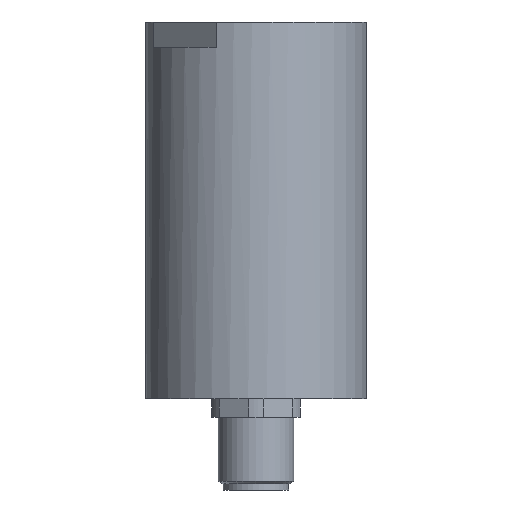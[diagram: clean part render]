
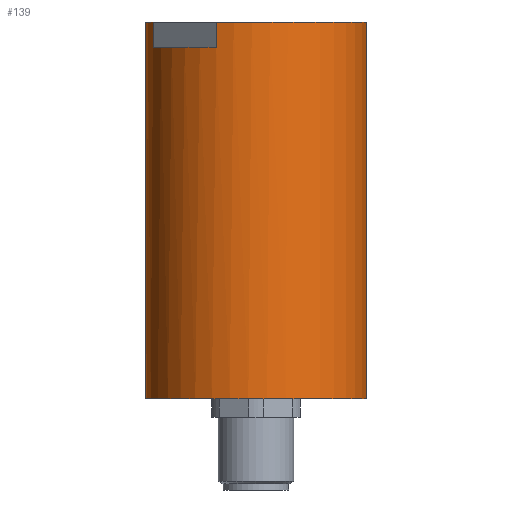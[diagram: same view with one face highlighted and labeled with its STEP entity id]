
A CAD part, front view. The second image highlights one B-rep face of the part: STEP entity #139.
In plain terms, the highlighted cylindrical face has radius 17.5 mm (diameter 35 mm), a full revolution.
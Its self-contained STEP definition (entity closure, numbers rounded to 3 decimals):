
#139 = ADVANCED_FACE( '', ( #373, #374, #375 ), #376, .T. );
#373 = FACE_OUTER_BOUND( '', #742, .T. );
#374 = FACE_OUTER_BOUND( '', #743, .T. );
#375 = FACE_BOUND( '', #744, .T. );
#376 = CYLINDRICAL_SURFACE( '', #745, 17.5 );
#742 = EDGE_LOOP( '', ( #1129, #1130, #1131, #1132, #1133, #1134, #1135, #1136 ) );
#743 = EDGE_LOOP( '', ( #1137 ) );
#744 = EDGE_LOOP( '', ( #1138, #1139, #1140, #1141 ) );
#745 = AXIS2_PLACEMENT_3D( '', #1142, #1143, #1144 );
#1129 = ORIENTED_EDGE( '', *, *, #1915, .T. );
#1130 = ORIENTED_EDGE( '', *, *, #1916, .T. );
#1131 = ORIENTED_EDGE( '', *, *, #1917, .T. );
#1132 = ORIENTED_EDGE( '', *, *, #1918, .F. );
#1133 = ORIENTED_EDGE( '', *, *, #1919, .T. );
#1134 = ORIENTED_EDGE( '', *, *, #1920, .T. );
#1135 = ORIENTED_EDGE( '', *, *, #1921, .T. );
#1136 = ORIENTED_EDGE( '', *, *, #1922, .F. );
#1137 = ORIENTED_EDGE( '', *, *, #1923, .F. );
#1138 = ORIENTED_EDGE( '', *, *, #1924, .F. );
#1139 = ORIENTED_EDGE( '', *, *, #1925, .T. );
#1140 = ORIENTED_EDGE( '', *, *, #1890, .F. );
#1141 = ORIENTED_EDGE( '', *, *, #1926, .F. );
#1142 = CARTESIAN_POINT( '', ( 0., 0., -4.5 ) );
#1143 = DIRECTION( '', ( 0., 0., -1. ) );
#1144 = DIRECTION( '', ( 1., 0., 0. ) );
#1890 = EDGE_CURVE( '', #2192, #2188, #2194, .T. );
#1915 = EDGE_CURVE( '', #2236, #2237, #2238, .T. );
#1916 = EDGE_CURVE( '', #2237, #2239, #2240, .T. );
#1917 = EDGE_CURVE( '', #2239, #2241, #2242, .T. );
#1918 = EDGE_CURVE( '', #2243, #2241, #2244, .T. );
#1919 = EDGE_CURVE( '', #2243, #2245, #2246, .T. );
#1920 = EDGE_CURVE( '', #2245, #2247, #2248, .T. );
#1921 = EDGE_CURVE( '', #2247, #2249, #2250, .T. );
#1922 = EDGE_CURVE( '', #2236, #2249, #2251, .T. );
#1923 = EDGE_CURVE( '', #2252, #2252, #2253, .T. );
#1924 = EDGE_CURVE( '', #2254, #2255, #2256, .T. );
#1925 = EDGE_CURVE( '', #2254, #2188, #2257, .T. );
#1926 = EDGE_CURVE( '', #2255, #2192, #2258, .T. );
#2188 = VERTEX_POINT( '', #2633 );
#2192 = VERTEX_POINT( '', #2639 );
#2194 = LINE( '', #2642, #2643 );
#2236 = VERTEX_POINT( '', #2694 );
#2237 = VERTEX_POINT( '', #2695 );
#2238 = CIRCLE( '', #2696, 17.5 );
#2239 = VERTEX_POINT( '', #2697 );
#2240 = LINE( '', #2698, #2699 );
#2241 = VERTEX_POINT( '', #2700 );
#2242 = CIRCLE( '', #2701, 17.5 );
#2243 = VERTEX_POINT( '', #2702 );
#2244 = LINE( '', #2703, #2704 );
#2245 = VERTEX_POINT( '', #2705 );
#2246 = CIRCLE( '', #2706, 17.5 );
#2247 = VERTEX_POINT( '', #2707 );
#2248 = LINE( '', #2708, #2709 );
#2249 = VERTEX_POINT( '', #2710 );
#2250 = CIRCLE( '', #2711, 17.5 );
#2251 = LINE( '', #2712, #2713 );
#2252 = VERTEX_POINT( '', #2714 );
#2253 = CIRCLE( '', #2715, 17.5 );
#2254 = VERTEX_POINT( '', #2716 );
#2255 = VERTEX_POINT( '', #2717 );
#2256 = LINE( '', #2718, #2719 );
#2257 = CIRCLE( '', #2720, 17.5 );
#2258 = CIRCLE( '', #2721, 17.5 );
#2633 = CARTESIAN_POINT( '', ( 13.746, 10.831, 21.7 ) );
#2639 = CARTESIAN_POINT( '', ( 13.746, 10.831, 31.7 ) );
#2642 = CARTESIAN_POINT( '', ( 13.746, 10.831, 31.7 ) );
#2643 = VECTOR( '', #3353, 1000. );
#2694 = CARTESIAN_POINT( '', ( -6.301, -16.326, 51.2 ) );
#2695 = CARTESIAN_POINT( '', ( -16.326, -6.301, 51.2 ) );
#2696 = AXIS2_PLACEMENT_3D( '', #3390, #3391, #3392 );
#2697 = CARTESIAN_POINT( '', ( -16.326, -6.301, 55.2 ) );
#2698 = CARTESIAN_POINT( '', ( -16.326, -6.301, 51.2 ) );
#2699 = VECTOR( '', #3393, 1000. );
#2700 = CARTESIAN_POINT( '', ( 6.301, 16.326, 55.2 ) );
#2701 = AXIS2_PLACEMENT_3D( '', #3394, #3395, #3396 );
#2702 = CARTESIAN_POINT( '', ( 6.301, 16.326, 51.2 ) );
#2703 = CARTESIAN_POINT( '', ( 6.301, 16.326, 51.2 ) );
#2704 = VECTOR( '', #3397, 1000. );
#2705 = CARTESIAN_POINT( '', ( 16.326, 6.301, 51.2 ) );
#2706 = AXIS2_PLACEMENT_3D( '', #3398, #3399, #3400 );
#2707 = CARTESIAN_POINT( '', ( 16.326, 6.301, 55.2 ) );
#2708 = CARTESIAN_POINT( '', ( 16.326, 6.301, 51.2 ) );
#2709 = VECTOR( '', #3401, 1000. );
#2710 = CARTESIAN_POINT( '', ( -6.301, -16.326, 55.2 ) );
#2711 = AXIS2_PLACEMENT_3D( '', #3402, #3403, #3404 );
#2712 = CARTESIAN_POINT( '', ( -6.301, -16.326, 51.2 ) );
#2713 = VECTOR( '', #3405, 1000. );
#2714 = CARTESIAN_POINT( '', ( 12.374, -12.374, -4.5 ) );
#2715 = AXIS2_PLACEMENT_3D( '', #3406, #3407, #3408 );
#2716 = CARTESIAN_POINT( '', ( -13.746, 10.831, 21.7 ) );
#2717 = CARTESIAN_POINT( '', ( -13.746, 10.831, 31.7 ) );
#2718 = CARTESIAN_POINT( '', ( -13.746, 10.831, 31.7 ) );
#2719 = VECTOR( '', #3409, 1000. );
#2720 = AXIS2_PLACEMENT_3D( '', #3410, #3411, #3412 );
#2721 = AXIS2_PLACEMENT_3D( '', #3413, #3414, #3415 );
#3353 = DIRECTION( '', ( 0., 0., -1. ) );
#3390 = CARTESIAN_POINT( '', ( 0., 0., 51.2 ) );
#3391 = DIRECTION( '', ( 0., 0., -1. ) );
#3392 = DIRECTION( '', ( 0.707, -0.707, 0. ) );
#3393 = DIRECTION( '', ( 0., 0., 1. ) );
#3394 = CARTESIAN_POINT( '', ( 0., 0., 55.2 ) );
#3395 = DIRECTION( '', ( 0., 0., -1. ) );
#3396 = DIRECTION( '', ( 0.707, -0.707, 0. ) );
#3397 = DIRECTION( '', ( 0., 0., 1. ) );
#3398 = CARTESIAN_POINT( '', ( 0., 0., 51.2 ) );
#3399 = DIRECTION( '', ( 0., 0., -1. ) );
#3400 = DIRECTION( '', ( 0.707, -0.707, 0. ) );
#3401 = DIRECTION( '', ( 0., 0., 1. ) );
#3402 = CARTESIAN_POINT( '', ( 0., 0., 55.2 ) );
#3403 = DIRECTION( '', ( 0., 0., -1. ) );
#3404 = DIRECTION( '', ( 0.707, -0.707, 0. ) );
#3405 = DIRECTION( '', ( 0., 0., 1. ) );
#3406 = CARTESIAN_POINT( '', ( 0., 0., -4.5 ) );
#3407 = DIRECTION( '', ( 0., 0., -1. ) );
#3408 = DIRECTION( '', ( 0.707, -0.707, 0. ) );
#3409 = DIRECTION( '', ( 0., 0., 1. ) );
#3410 = CARTESIAN_POINT( '', ( 0., 0., 21.7 ) );
#3411 = DIRECTION( '', ( 0., 0., -1. ) );
#3412 = DIRECTION( '', ( -1., 0., 0. ) );
#3413 = CARTESIAN_POINT( '', ( 0., 0., 31.7 ) );
#3414 = DIRECTION( '', ( 0., 0., -1. ) );
#3415 = DIRECTION( '', ( -1., 0., 0. ) );
